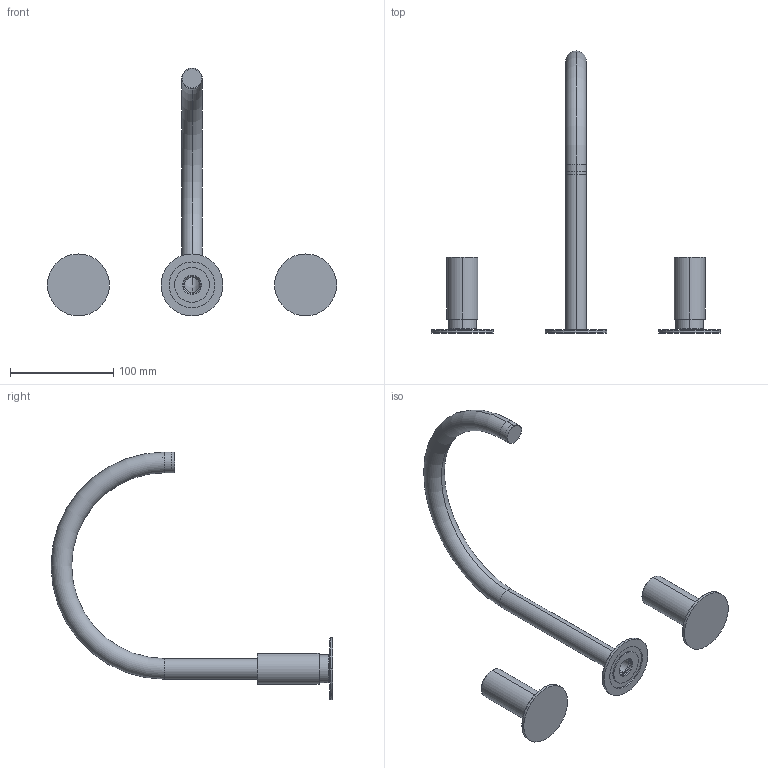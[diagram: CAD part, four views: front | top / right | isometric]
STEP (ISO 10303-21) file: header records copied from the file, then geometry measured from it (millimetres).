
FILE_DESCRIPTION((''),'2;1');
FILE_NAME('12068NP00C73_SW0001','2026-02-16T10:35:56',('carloff'),(''),'CREO PARAMETRIC BY PTC INC, 2022014','CREO PARAMETRIC BY PTC INC, 2022014','');
FILE_SCHEMA(('CONFIG_CONTROL_DESIGN'));
Length unit declared in the file: millimetre
Products named in the file (1): 12068NP00C73_SW0001
Bounding box: 280 x 273 x 240 mm (x, y, z)
Volume: 162342.9 mm3; surface area: 92081.9 mm2
Topology: 3 solids, 3 shells, 511 faces, 1848 edges, 1206 vertices
Faces by surface type: plane 325, cylinder 132, cone 32, torus 22
Entity records: 21160 total; most frequent: CARTESIAN_POINT 6091, ORIENTED_EDGE 3696, DIRECTION 2614, EDGE_CURVE 1848, VERTEX_POINT 1206, AXIS2_PLACEMENT_3D 889, VECTOR 836, LINE 836
